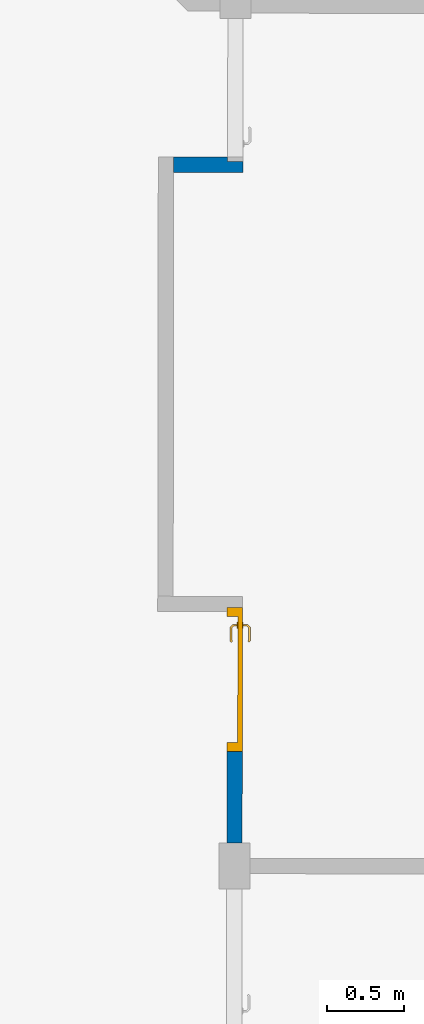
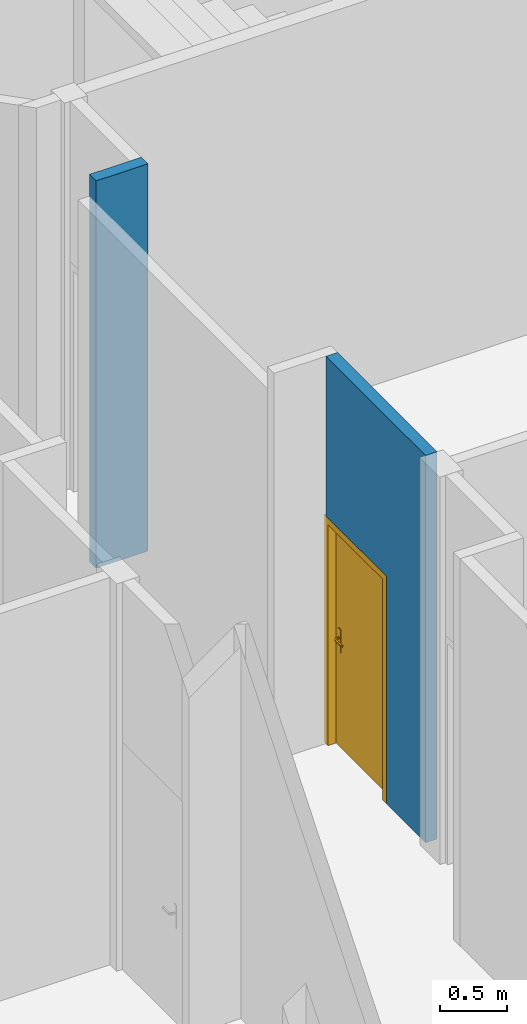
# One storey, part 68 of 101: 2 walls, 1 door, 2 openings.
"""IFC2X3 building model written with IfcOpenShell, lengths in metres."""

from ifc_helpers import new_model, entity, si_unit, converted_unit, derived_unit, direction, frame, frame_2d, origin, place, context, subcontext, project, spatial, rectangle, extrude, faceted_brep, source, transform, mapped, material, material_list, layer, layer_set, layer_usage, type_object, type_shapes, element, fill, save


model = new_model("IFC2X3")

# Units and contexts
model_context = context("Model", 3, precision=1e-05, world=origin(), true_north=direction((6.123233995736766e-17, 1.0)))
body_context = subcontext(model_context, "Body", "Model", "MODEL_VIEW")
ifc_project = project(units=[si_unit("LENGTHUNIT", "METRE"), si_unit("AREAUNIT", "SQUARE_METRE"), converted_unit("PLANEANGLEUNIT", "DEGREE", entity("IfcPlaneAngleMeasure", 0.017453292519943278), si_unit("PLANEANGLEUNIT", "RADIAN"), dimensions=[0, 0, 0, 0, 0, 0, 0]), derived_unit("THERMALTRANSMITTANCEUNIT", [(si_unit("MASSUNIT", "GRAM", prefix="KILO"), 1), (si_unit("THERMODYNAMICTEMPERATUREUNIT", "KELVIN"), -1), (si_unit("TIMEUNIT", "SECOND"), -3)])], contexts=[model_context])

# Site, building, storey
site_placement = place(None, frame((1253.6752467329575, 2072.143113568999, 91.49999999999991), z_axis=(0.0, 0.0, 1.0), x_axis=(0.7237211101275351, 0.6900925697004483, 0.0)))
site = spatial("IfcSite", under=ifc_project, at=site_placement, Name="Surface", CompositionType="ELEMENT")
building_placement = place(site_placement, origin())
building = spatial("IfcBuilding", under=site, at=building_placement, CompositionType="ELEMENT")
storey_placement = place(building_placement, origin())
storey = spatial("IfcBuildingStorey", under=building, at=storey_placement, Name="0- Rdc", CompositionType="ELEMENT", Elevation=-5.764692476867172e-13)

# Wall, opening, door
ifc_material_1 = material(Name="OMD_Béton blanc")
ifc_layer = layer(ifc_material_1, 0.1)
ifc_layer_set = layer_set([ifc_layer], Name="Mur de base:MUR 10")
ifc_layer_usage_1 = layer_usage(ifc_layer_set, "AXIS2", "NEGATIVE", 0.05)
wall_type = type_object("IfcWallType", Name="Mur de base:MUR 10", PredefinedType="STANDARD", material=ifc_layer_set)
wall_1_placement = place(storey_placement, frame((166.0131281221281, 15.413522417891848, 0.0), z_axis=(0.0, 0.0, 1.0), x_axis=(0.6909838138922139, 0.7228702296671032, 0.0)))
wall_1 = element("IfcWallStandardCase", 1, at=wall_1_placement, inside=storey, type_object=wall_type, material=ifc_layer_usage_1, Name="Mur de base:MUR 10", ObjectType="Mur de base:MUR 10", context=body_context, shape_type="SweptSolid", body=[
    extrude(rectangle(XDim=1.5000000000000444, YDim=0.10000000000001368, at=frame_2d((0.7500000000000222, -6.106226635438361e-16), x_axis=(-1.0, 0.0))), origin(), (0.0, 0.0, 1.0), 3.5499999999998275),
])
opening_1_placement = place(wall_1_placement, frame((1.5275000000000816, 0.05000000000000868, 0.0)))
opening_1 = element("IfcOpeningElement", 2, at=opening_1_placement, cuts=wall_1, Name="OMD_Porte 1V tunnel:80x204:1", ObjectType="Opening", context=body_context, shape_type="SweptSolid", body=[
    extrude(rectangle(XDim=2.0850000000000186, YDim=0.9349999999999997, at=frame_2d((1.0425000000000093, 0.46749999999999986), x_axis=(1.0, 0.0))), frame((0.0, 0.0, 0.0), z_axis=(0.0, -1.0, 0.0), x_axis=(0.0, 0.0, 1.0)), (0.0, 0.0, 1.0), 0.09999999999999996),
])
ifc_material_2 = material(Name="Porte - Poignée")
ifc_material_3 = material(Name="OMD_Peinture mur")
ifc_material_4 = material(Name="OMD_Bois")
ifc_material_list = material_list([ifc_material_2, ifc_material_3, ifc_material_4])
door_style = type_object("IfcDoorStyle", Name="OMD_Porte 1V tunnel:80x204", ConstructionType="NOTDEFINED", OperationType="NOTDEFINED", ParameterTakesPrecedence=False, Sizeable=False, material=ifc_material_list)
shared_shape = source(origin(), body_context, "Body", "Brep", [
    faceted_brep([(0.8220252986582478, 0.03500000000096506, 1.0077804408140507), (0.8179747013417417, 0.03500000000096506, 1.007780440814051), (0.8139999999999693, 0.03500000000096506, 1.00699999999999), (0.8139999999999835, 0.03500000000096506, 0.9930000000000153), (0.8179747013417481, 0.03500000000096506, 0.9922195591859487), (0.8220252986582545, 0.03500000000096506, 0.9922195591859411), (0.8260000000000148, 0.03500000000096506, 0.9929999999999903), (0.826000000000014, 0.03500000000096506, 1.006999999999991), (0.8139999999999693, 0.05748520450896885, 1.00699999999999), (0.8139999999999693, 0.05748520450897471, 0.9930000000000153), (0.8179747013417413, 0.059131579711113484, 1.007780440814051), (0.8220252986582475, 0.060809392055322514, 1.0077804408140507), (0.8058389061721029, 0.07699578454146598, 1.0077804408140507), (0.8041610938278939, 0.07294518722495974, 1.007780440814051), (0.7207931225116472, 0.07294518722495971, 1.0077804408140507), (0.7191153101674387, 0.07699578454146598, 1.0077804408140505), (0.7114510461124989, 0.06933152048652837, 1.0077804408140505), (0.714315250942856, 0.0664673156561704, 1.0077804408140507), (0.8260000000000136, 0.062455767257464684, 1.006999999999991), (0.8260000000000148, 0.062455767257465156, 0.9929999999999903), (0.8220252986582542, 0.06080939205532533, 0.9922195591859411), (0.8179747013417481, 0.05913157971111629, 0.9922195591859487), (0.8041610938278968, 0.07294518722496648, 0.9922195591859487), (0.8058389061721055, 0.07699578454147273, 0.9922195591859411), (0.7191153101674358, 0.07699578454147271, 0.9922195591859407), (0.7207931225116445, 0.07294518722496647, 0.9922195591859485), (0.7143152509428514, 0.06646731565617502, 0.9922195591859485), (0.7114510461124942, 0.06933152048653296, 0.9922195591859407), (0.8025147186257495, 0.06897048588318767, 1.00699999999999), (0.8025147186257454, 0.06897048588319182, 0.9930000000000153), (0.8074852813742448, 0.08097048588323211, 1.006999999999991), (0.8074852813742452, 0.08097048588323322, 0.9929999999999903), (0.7624771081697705, 0.06897048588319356, 1.0069999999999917), (0.7224394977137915, 0.06897048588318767, 1.0069999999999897), (0.7224394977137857, 0.0689704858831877, 0.9930000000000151), (0.7624771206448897, 0.06897048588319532, 0.9930000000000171), (0.7624771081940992, 0.07512492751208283, 1.0078781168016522), (0.7573994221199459, 0.08097048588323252, 1.0069999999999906), (0.7174689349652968, 0.08097048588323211, 1.0069999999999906), (0.7675547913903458, 0.08097048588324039, 0.9929999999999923), (0.7174689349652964, 0.08097048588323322, 0.99299999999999), (0.762477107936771, 0.07512492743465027, 0.9921218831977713), (0.7086405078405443, 0.07214205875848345, 1.0069999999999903), (0.7086405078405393, 0.07214205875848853, 0.9929999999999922), (0.7171257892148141, 0.06365677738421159, 0.9930000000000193), (0.71712578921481, 0.06365677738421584, 1.0069999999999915)], [[[0, 1, 2, 3, 4, 5, 6, 7]], [[8, 9, 3, 2]], [[1, 10, 8, 2]], [[1, 0, 11, 12, 13, 10]], [[14, 15, 16, 17]], [[7, 18, 11, 0]], [[18, 7, 6, 19]], [[6, 5, 20, 19]], [[5, 4, 21, 22, 23, 20]], [[24, 25, 26, 27]], [[4, 3, 9, 21]], [[28, 29, 9, 8]], [[8, 10, 13, 28]], [[18, 30, 12, 11]], [[31, 30, 18, 19]], [[19, 20, 23, 31]], [[21, 9, 29, 22]], [[29, 28, 32, 33, 34, 35]], [[36, 32, 13]], [[37, 38, 15]], [[37, 12, 30]], [[36, 12, 37]], [[14, 32, 36]], [[36, 15, 14]], [[28, 13, 32]], [[32, 14, 33]], [[12, 36, 13]], [[15, 36, 37]], [[30, 31, 39, 40, 38, 37]], [[23, 41, 39]], [[24, 39, 41]], [[39, 31, 23]], [[39, 24, 40]], [[22, 35, 41]], [[41, 23, 22]], [[41, 35, 25]], [[35, 22, 29]], [[34, 25, 35]], [[24, 41, 25]], [[17, 16, 42, 43, 27, 26, 44, 45]], [[45, 44, 34, 33]], [[33, 14, 17, 45]], [[15, 38, 42, 16]], [[43, 42, 38, 40]], [[24, 27, 43, 40]], [[34, 44, 26, 25]]]),
    faceted_brep([(0.817974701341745, -0.004999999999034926, 1.007780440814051), (0.8220252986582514, -0.004999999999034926, 1.0077804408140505), (0.8260000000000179, -0.004999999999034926, 1.0069999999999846), (0.8260000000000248, -0.004999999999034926, 0.9929999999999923), (0.8220252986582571, -0.004999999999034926, 0.992219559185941), (0.817974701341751, -0.004999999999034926, 0.9922195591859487), (0.8139999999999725, -0.004999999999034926, 0.9930000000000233), (0.8139999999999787, -0.004999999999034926, 1.006999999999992), (0.8220252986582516, -0.03100457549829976, 1.0077804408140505), (0.8260000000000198, -0.03265095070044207, 1.0069999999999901), (0.8179747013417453, -0.02932676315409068, 1.007780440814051), (0.8042986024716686, -0.04300286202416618, 1.007780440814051), (0.8059764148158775, -0.04705345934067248, 1.0077804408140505), (0.7191424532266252, -0.04705345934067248, 1.0077804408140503), (0.7208202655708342, -0.04300286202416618, 1.0077804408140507), (0.714342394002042, -0.03652499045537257, 1.0077804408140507), (0.7114781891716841, -0.039389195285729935, 1.0077804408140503), (0.813999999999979, -0.02768038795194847, 1.006999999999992), (0.8139999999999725, -0.02768038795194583, 0.9930000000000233), (0.817974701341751, -0.029326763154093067, 0.9922195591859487), (0.8220252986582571, -0.031004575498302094, 0.992219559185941), (0.8059764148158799, -0.0470534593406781, 0.992219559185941), (0.804298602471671, -0.04300286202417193, 0.9922195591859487), (0.7208202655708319, -0.04300286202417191, 0.9922195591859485), (0.7191424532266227, -0.047053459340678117, 0.9922195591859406), (0.71147818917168, -0.03938919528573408, 0.9922195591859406), (0.7143423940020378, -0.036524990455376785, 0.9922195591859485), (0.8260000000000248, -0.032650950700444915, 0.9929999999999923), (0.807622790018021, -0.051028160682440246, 1.0069999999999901), (0.8026522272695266, -0.03902816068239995, 1.006999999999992), (0.8026522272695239, -0.03902816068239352, 0.9930000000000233), (0.8076227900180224, -0.05102816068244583, 0.9929999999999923), (0.762559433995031, -0.0451828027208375, 1.0078781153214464), (0.7676923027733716, -0.05102816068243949, 1.0069999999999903), (0.7174960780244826, -0.05102816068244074, 1.00699999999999), (0.7625594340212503, -0.03902816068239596, 1.0069999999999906), (0.7224666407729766, -0.039028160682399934, 1.0069999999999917), (0.7625594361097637, -0.03902816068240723, 0.9930000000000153), (0.7224666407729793, -0.03902816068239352, 0.9930000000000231), (0.7625594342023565, -0.04518280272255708, 0.9921218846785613), (0.7574265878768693, -0.051028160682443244, 0.9929999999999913), (0.7174960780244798, -0.05102816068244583, 0.9929999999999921), (0.7171529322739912, -0.033714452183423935, 0.9930000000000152), (0.7086676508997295, -0.04219973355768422, 0.9929999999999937), (0.7086676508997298, -0.04219973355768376, 1.0069999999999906), (0.717152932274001, -0.03371445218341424, 1.0069999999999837)], [[[0, 1, 2, 3, 4, 5, 6, 7]], [[2, 1, 8, 9]], [[1, 0, 10, 11, 12, 8]], [[13, 14, 15, 16]], [[0, 7, 17, 10]], [[18, 17, 7, 6]], [[5, 19, 18, 6]], [[5, 4, 20, 21, 22, 19]], [[23, 24, 25, 26]], [[3, 27, 20, 4]], [[9, 27, 3, 2]], [[9, 8, 12, 28]], [[10, 17, 29, 11]], [[30, 29, 17, 18]], [[18, 19, 22, 30]], [[20, 27, 31, 21]], [[28, 31, 27, 9]], [[12, 32, 33]], [[13, 33, 32]], [[33, 28, 12]], [[33, 13, 34]], [[11, 35, 32]], [[32, 12, 11]], [[32, 35, 14]], [[35, 11, 29]], [[36, 14, 35]], [[13, 32, 14]], [[29, 30, 37, 38, 36, 35]], [[39, 37, 22]], [[40, 41, 24]], [[40, 21, 31]], [[39, 21, 40]], [[23, 37, 39]], [[39, 24, 23]], [[30, 22, 37]], [[37, 23, 38]], [[21, 39, 22]], [[24, 39, 40]], [[31, 28, 33, 34, 41, 40]], [[42, 26, 25, 43, 44, 16, 15, 45]], [[13, 16, 44, 34]], [[36, 45, 15, 14]], [[42, 45, 36, 38]], [[38, 23, 26, 42]], [[24, 41, 43, 25]], [[44, 43, 41, 34]]]),
    faceted_brep([(0.8199999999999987, 0.030000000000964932, 0.8646410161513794), (0.8303527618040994, 0.03000000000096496, 0.866003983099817), (0.8399999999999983, 0.030000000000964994, 0.8700000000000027), (0.8399999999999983, 0.030000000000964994, 1.0800000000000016), (0.8303527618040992, 0.03000000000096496, 1.0839960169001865), (0.8199999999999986, 0.030000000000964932, 1.0853589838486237), (0.809647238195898, 0.030000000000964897, 1.0839960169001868), (0.7999999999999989, 0.030000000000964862, 1.0800000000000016), (0.7999999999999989, 0.030000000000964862, 0.8700000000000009), (0.8096472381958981, 0.030000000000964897, 0.8660039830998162), (0.8199999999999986, 0.03500000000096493, 1.0853589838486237), (0.8303527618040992, 0.03500000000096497, 1.0839960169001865), (0.8399999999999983, 0.035000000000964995, 1.0800000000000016), (0.8399999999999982, 0.035000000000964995, 0.8700000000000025), (0.8303527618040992, 0.03500000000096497, 0.866003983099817), (0.8199999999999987, 0.03500000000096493, 0.8646410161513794), (0.8096472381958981, 0.0350000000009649, 0.8660039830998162), (0.7999999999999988, 0.03500000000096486, 0.8700000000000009), (0.7999999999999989, 0.03500000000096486, 1.0800000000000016), (0.809647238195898, 0.0350000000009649, 1.0839960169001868)], [[[0, 1, 2, 3, 4, 5, 6, 7, 8, 9]], [[10, 11, 12, 13, 14, 15, 16, 17, 18, 19]], [[6, 19, 18, 7]], [[5, 10, 19, 6]], [[4, 11, 10, 5]], [[4, 3, 12, 11]], [[12, 3, 2, 13]], [[1, 14, 13, 2]], [[0, 15, 14, 1]], [[9, 16, 15, 0]], [[9, 8, 17, 16]], [[17, 8, 7, 18]]]),
    faceted_brep([(0.819999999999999, -0.004999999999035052, 0.8646410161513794), (0.8303527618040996, -0.0049999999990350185, 0.8660039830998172), (0.8399999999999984, -0.004999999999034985, 0.8700000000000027), (0.8399999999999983, -0.004999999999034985, 1.0800000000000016), (0.8303527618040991, -0.0049999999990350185, 1.0839960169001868), (0.8199999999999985, -0.004999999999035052, 1.0853589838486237), (0.8096472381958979, -0.004999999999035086, 1.0839960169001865), (0.7999999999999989, -0.004999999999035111, 1.0800000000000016), (0.7999999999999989, -0.004999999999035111, 0.8700000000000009), (0.8096472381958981, -0.004999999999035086, 0.8660039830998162), (0.8399999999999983, 0.0, 1.0800000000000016), (0.8399999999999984, 0.0, 0.8700000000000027), (0.8303527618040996, 0.0, 0.8660039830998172), (0.819999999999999, 0.0, 0.8646410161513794), (0.8096472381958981, 0.0, 0.8660039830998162), (0.7999999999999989, 0.0, 0.8700000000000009), (0.7999999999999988, 0.0, 1.0800000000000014), (0.8096472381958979, 0.0, 1.0839960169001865), (0.8199999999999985, 0.0, 1.0853589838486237), (0.8303527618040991, 0.0, 1.0839960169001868)], [[[0, 1, 2, 3, 4, 5, 6, 7, 8, 9]], [[10, 11, 12, 13, 14, 15, 16, 17, 18, 19]], [[1, 12, 11, 2]], [[0, 13, 12, 1]], [[9, 14, 13, 0]], [[9, 8, 15, 14]], [[15, 8, 7, 16]], [[6, 17, 16, 7]], [[5, 18, 17, 6]], [[4, 19, 18, 5]], [[4, 3, 10, 19]], [[10, 3, 2, 11]]]),
    faceted_brep([(0.89, 0.030000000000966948, 0.0), (0.89, 0.0, 0.0), (0.04500000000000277, 0.0, 0.0), (0.04500000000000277, 0.030000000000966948, 0.0), (0.89, 0.030000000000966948, 2.04), (0.89, 0.0, 2.04), (0.04500000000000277, 0.0, 2.04), (0.04500000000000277, 0.030000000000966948, 2.04)], [[[0, 1, 2, 3]], [[4, 5, 1, 0]], [[5, 6, 2, 1]], [[6, 7, 3, 2]], [[7, 4, 0, 3]], [[4, 7, 6, 5]]]),
    faceted_brep([(0.9350000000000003, 0.0, 0.0), (0.89, 0.0, 0.0), (0.8900000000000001, 0.03000000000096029, 0.0), (0.8750000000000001, 0.030000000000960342, 0.0), (0.8750000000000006, 0.10000000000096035, 0.0), (0.9350000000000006, 0.10000000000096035, 0.0), (0.9350000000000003, 0.0, 2.085), (0.0, 0.0, 2.085), (0.0, 0.0, 0.0), (0.04500000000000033, 0.0, 0.0), (0.04500000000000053, 0.0, 2.04), (0.8899999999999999, 0.0, 2.0399999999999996), (0.89, 0.030000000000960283, 2.0399999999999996), (0.0450000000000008, 0.03000000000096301, 2.0399999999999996), (0.0450000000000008, 0.030000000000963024, 0.0), (0.060000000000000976, 0.030000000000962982, 0.0), (0.060000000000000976, 0.03000000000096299, 2.0249999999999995), (0.8750000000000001, 0.03000000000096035, 2.025), (0.8750000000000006, 0.10000000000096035, 2.0250000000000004), (0.060000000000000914, 0.10000000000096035, 2.025), (0.060000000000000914, 0.10000000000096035, 0.0), (0.0, 0.10000000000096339, 0.0), (0.0, 0.10000000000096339, 2.085), (0.9350000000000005, 0.10000000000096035, 2.085)], [[[0, 1, 2, 3, 4, 5]], [[1, 0, 6, 7, 8, 9, 10, 11]], [[2, 1, 11, 12]], [[3, 2, 12, 13, 14, 15, 16, 17]], [[4, 3, 17, 18]], [[5, 4, 18, 19, 20, 21, 22, 23]], [[0, 5, 23, 6]], [[7, 22, 21, 8]], [[8, 21, 20, 15, 14, 9]], [[13, 10, 9, 14]], [[19, 16, 15, 20]], [[12, 11, 10, 13]], [[18, 17, 16, 19]], [[6, 23, 22, 7]]]),
])
type_shapes(door_style, [shared_shape])
door_placement = place(opening_1_placement, frame((-0.9349999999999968, -0.10000000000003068, 0.0)))
door = element("IfcDoor", 3, at=door_placement, inside=storey, type_object=door_style, material=ifc_material_list, Name="OMD_Porte 1V tunnel:80x204", ObjectType="OMD_Porte 1V tunnel:80x204", OverallHeight=2.0850000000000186, OverallWidth=0.9350000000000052, context=body_context, shape_type="MappedRepresentation", body=[
    mapped(shared_shape, transform((0.0, 0.0, 0.0), scale=1.0)),
])
fill(opening_1, door)

# Wall, opening
ifc_layer_usage_2 = layer_usage(ifc_layer_set, "AXIS2", "NEGATIVE", 0.05)
wall_2_placement = place(storey_placement, frame((169.08960041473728, 18.55960223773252, 0.0), z_axis=(0.0, 0.0, 1.0), x_axis=(-0.7228702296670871, 0.6909838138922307, 0.0)))
wall_2 = element("IfcWallStandardCase", 4, at=wall_2_placement, inside=storey, type_object=wall_type, material=ifc_layer_usage_2, Name="Mur de base:MUR 10", ObjectType="Mur de base:MUR 10", context=body_context, shape_type="SweptSolid", body=[
    extrude(rectangle(XDim=0.449999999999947, YDim=0.10000000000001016, at=frame_2d((0.2249999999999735, -8.396061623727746e-16), x_axis=(-1.0, 0.0))), origin(), (0.0, 0.0, 1.0), 3.5499999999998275),
])
opening_2_placement = place(wall_2_placement, frame((109.40545354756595, 130.25436091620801, 0.0)))
element("IfcOpeningElement", 5, at=opening_2_placement, cuts=wall_2, Name="Mur de base:MUR 10", ObjectType="Opening", context=body_context, shape_type="SweptSolid", body=[
    extrude(rectangle(XDim=2.0850000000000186, YDim=0.09999999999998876, at=frame_2d((1.8509499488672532e-14, 1.1102230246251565e-16), x_axis=(0.0, 1.0))), frame((-109.35545354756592, -131.21186091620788, 1.0425000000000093), z_axis=(0.0, 1.0, 0.0), x_axis=(-1.0, 0.0, 0.0)), (0.0, 0.0, 1.0), 0.9349999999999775),
])

save(model, "model.ifc")
